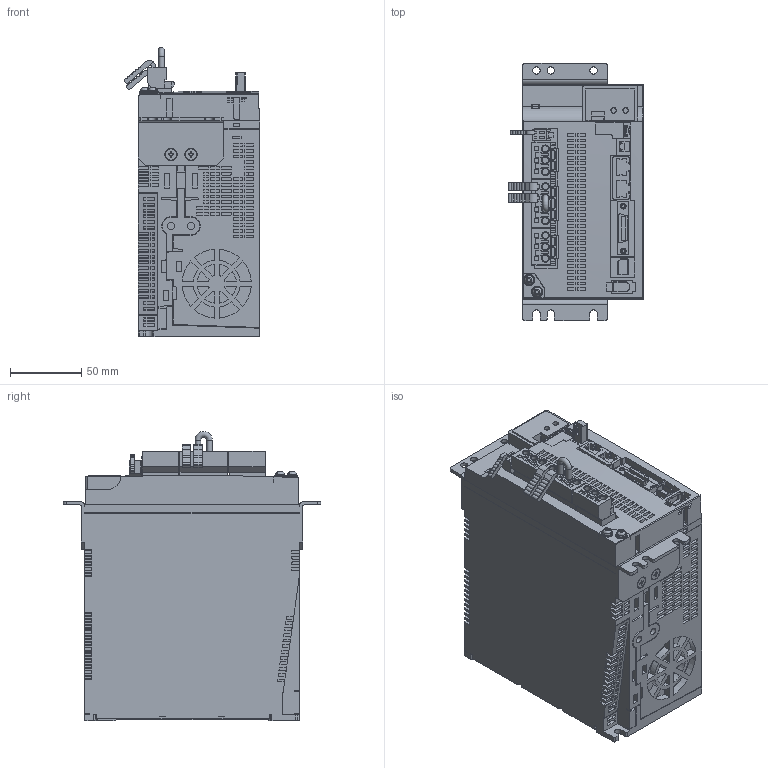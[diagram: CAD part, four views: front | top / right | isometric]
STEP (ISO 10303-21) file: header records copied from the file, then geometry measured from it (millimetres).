
FILE_DESCRIPTION( ( 'STEP AP214' ), '1' );
FILE_NAME( 'p:/temp/worker_7/temp/exporttempdir_904_404_w7PGH/format_0/MDDLT64BF.stp', '2020-08-19T09:11:36', ( 'License CC BY-ND 4.0' ), ( 'CADENAS' ), ' ', 'PARTsolutions', ' ' );
FILE_SCHEMA( ( 'AUTOMOTIVE_DESIGN { 1 0 10303 214 1 1 1 1 }' ) );
Length unit declared in the file: millimetre
Products named in the file (1): _MDDLT64BF
Bounding box: 94.63 x 180 x 202.25 mm (x, y, z)
Volume: 2129714 mm3; surface area: 164017.2 mm2
Topology: 1 solids, 2 shells, 3754 faces, 10149 edges, 6744 vertices
Faces by surface type: plane 2455, cylinder 1261, cone 33, bspline 4, torus 1
Full cylindrical faces by diameter (mm): 2.6 x1, 3 x2, 3.6 x2, 3.8 x2, 4 x4, 4.4 x10, 5 x4, 5.2 x4, 7.2 x2, 8 x6
Entity records: 148108 total; most frequent: CARTESIAN_POINT 21177, DIRECTION 20175, ORIENTED_EDGE 20150, EDGE_CURVE 10075, LINE 7317, VECTOR 7317, VERTEX_POINT 6738, AXIS2_PLACEMENT_3D 6429
